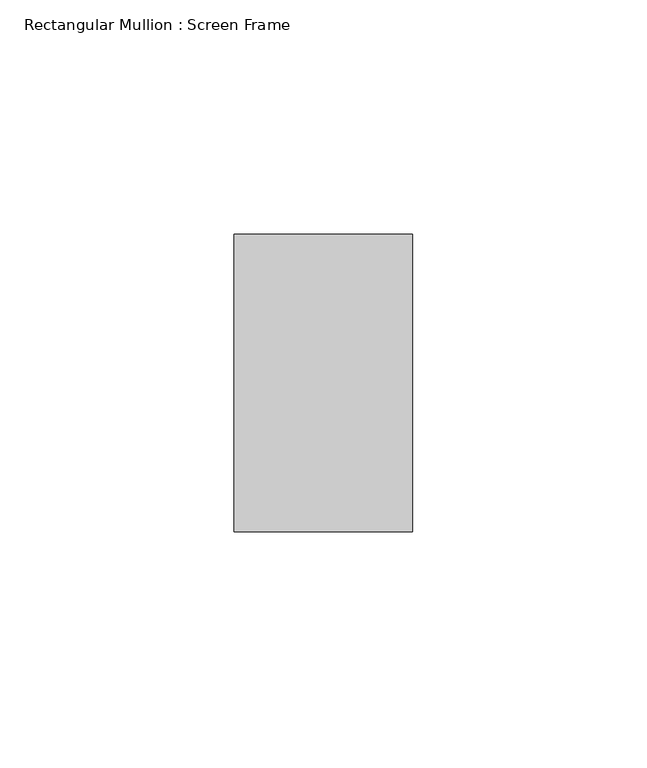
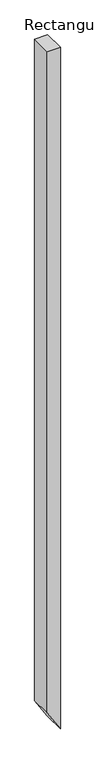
"""IFC4 building model written with IfcOpenShell, lengths in millimetres: member geometry, Rectangular Mullion : Screen Frame."""

from ifc_helpers import new_model, si_unit, frame, origin, place, context, project, spatial, polyline, outline, extrude, source, transform, mapped, element, save


def rectangular_mullion_screen_frame_83de2e3d(model_context):
    return source(origin(), model_context, "Body", "SweptSolid", [
        extrude(outline(polyline([(0.0, 0.0), (0.0, -38.1), (-2042.1398217, -38.1), (-2104.2464477, 0.0), (0.0, 0.0)])), frame((0.0, -31.75, 0.0), z_axis=(0.0, 1.0, 0.0), x_axis=(0.0, 0.0, 1.0)), (0.0, 0.0, 1.0), 63.5),
    ])


if __name__ == "__main__":
    model = new_model("IFC4")
    model_context = context("Model", 3, world=origin())
    ifc_project = project(units=[si_unit("LENGTHUNIT", "METRE", prefix="MILLI")], contexts=[model_context])
    site = spatial("IfcSite", under=ifc_project)
    building = spatial("IfcBuilding", under=site)
    placement = place(None, origin())
    rectangular_mullion_screen_frame_shape = rectangular_mullion_screen_frame_83de2e3d(model_context)
    element("IfcMember", 1, ObjectType="Rectangular Mullion : Screen Frame", at=placement, inside=building, context=model_context, shape_type="MappedRepresentation", body=[
        mapped(rectangular_mullion_screen_frame_shape, transform((0.0, 0.0, 0.0), x_axis=(1.0, 0.0, 0.0), y_axis=(0.0, 1.0, 0.0), z_axis=(0.0, 0.0, 1.0))),
    ])
    save(model, "model.ifc")
